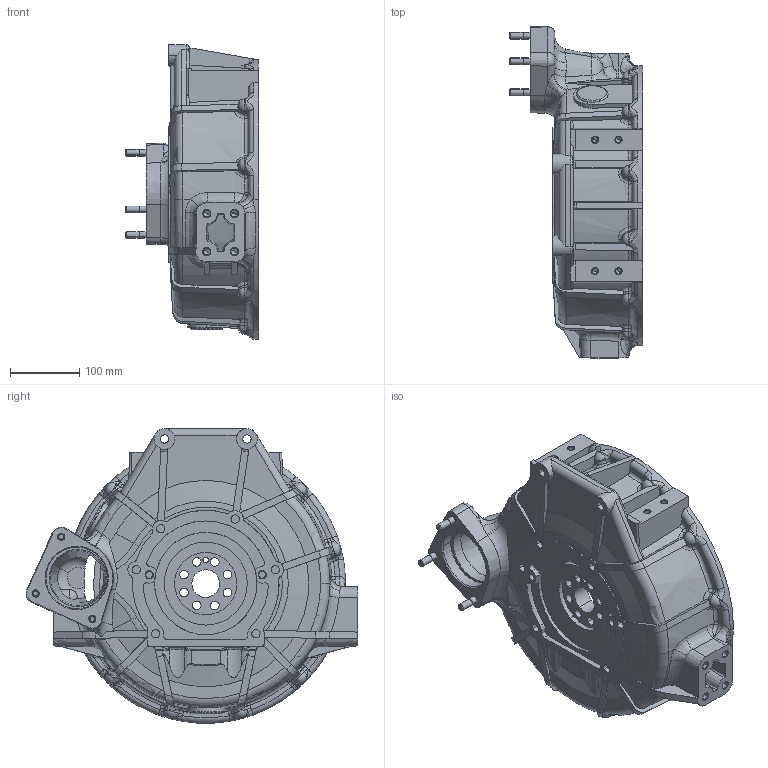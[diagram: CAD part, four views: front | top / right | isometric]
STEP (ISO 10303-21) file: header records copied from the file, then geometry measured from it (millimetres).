
FILE_DESCRIPTION(('CATIA V6 STEP'),'2;1');
FILE_NAME('C:\Users\i0213432\Desktop\STD 3D\D18\D18&D24_FW&FWH_E.stp','2019-07-25T07:54:48+00:00',('none'),('none'),'3DEXPERIENCE Platform3DEXPERIENCE R2014x HotFix 24','3DEXPERIENCE Platform STEP AP203','none');
FILE_SCHEMA(('CONFIG_CONTROL_DESIGN'));
Length unit declared in the file: millimetre
Assembly tree (2 placements, depth 0):
Bounding box: 192.8 x 479.7 x 426 mm (x, y, z)
Volume: 5193769.9 mm3; surface area: 952292.8 mm2
Topology: 7 solids, 7 shells, 1130 faces, 2844 edges, 1712 vertices
Faces by surface type: cone 294, cylinder 289, plane 214, bspline 178, torus 124, sphere 24, revolution 7
Entity records: 49892 total; most frequent: CARTESIAN_POINT 27353, ORIENTED_EDGE 5528, DIRECTION 2933, EDGE_CURVE 2764, VERTEX_POINT 1712, AXIS2_PLACEMENT_3D 1538, EDGE_LOOP 1250, ADVANCED_FACE 1130
